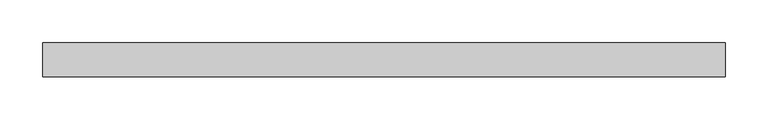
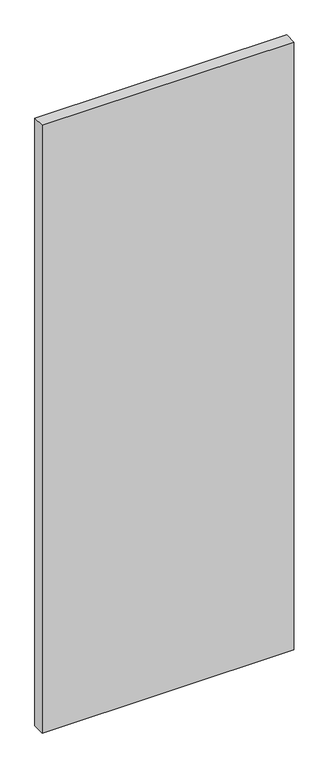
"""IFC4 building model written with IfcOpenShell, lengths in millimetres: plate geometry, Panneau système : Vitre 4cm."""

from ifc_helpers import new_model, si_unit, origin, origin_with_axes, place, context, project, spatial, polyline, outline, extrude, source, transform, mapped, element, save


def plate_26627214(model_context):
    return source(origin(), model_context, "Body", "SweptSolid", [
        extrude(outline(polyline([(400.0, -20.0), (-400.0, -20.0), (-400.0, 20.0), (400.0, 20.0), (400.0, -20.0)])), origin_with_axes(), (0.0, 0.0, 1.0), 2042.0),
    ])


if __name__ == "__main__":
    model = new_model("IFC4")
    model_context = context("Model", 3, world=origin())
    ifc_project = project(units=[si_unit("LENGTHUNIT", "METRE", prefix="MILLI")], contexts=[model_context])
    site = spatial("IfcSite", under=ifc_project)
    building = spatial("IfcBuilding", under=site)
    placement = place(None, origin())
    plate_shape = plate_26627214(model_context)
    element("IfcPlate", 1, ObjectType="Panneau système : Vitre 4cm", at=placement, inside=building, context=model_context, shape_type="MappedRepresentation", body=[
        mapped(plate_shape, transform((0.0, 0.0, 0.0), x_axis=(1.0, 0.0, 0.0), y_axis=(0.0, 1.0, 0.0), z_axis=(0.0, 0.0, 1.0))),
    ])
    save(model, "model.ifc")
